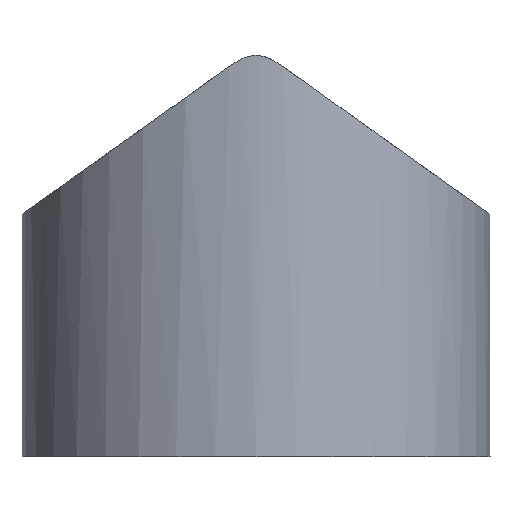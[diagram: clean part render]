
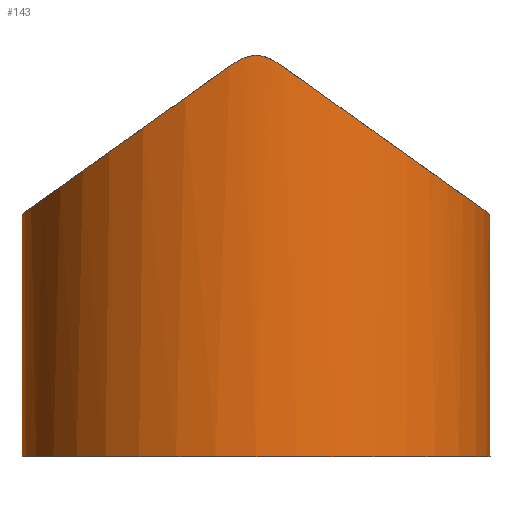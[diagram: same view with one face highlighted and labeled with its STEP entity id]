
A CAD part, left-side view. The second image highlights one B-rep face of the part: STEP entity #143.
In plain terms, the highlighted cylindrical face has radius 4.445 mm (diameter 8.89 mm), a full revolution.
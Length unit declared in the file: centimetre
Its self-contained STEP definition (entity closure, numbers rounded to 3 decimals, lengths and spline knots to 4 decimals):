
#34=CIRCLE('',#150,0.4445);
#35=CYLINDRICAL_SURFACE('',#149,0.4445);
#36=B_SPLINE_CURVE_WITH_KNOTS('',3,(#183,#184,#185,#186,#187,#188),.UNSPECIFIED.,
 .F.,.U.,(4,2,4),(0.,0.0167,0.0335),.UNSPECIFIED.);
#37=B_SPLINE_CURVE_WITH_KNOTS('',3,(#193,#194,#195,#196,#197,#198,#199,#200),
 .UNSPECIFIED.,.F.,.U.,(4,2,2,4),(0.,0.0073,0.0204,
0.0335),.UNSPECIFIED.);
#38=B_SPLINE_CURVE_WITH_KNOTS('',3,(#211,#212,#213,#214,#215,#216),.UNSPECIFIED.,
 .F.,.U.,(4,2,4),(0.,0.0107,0.0215),.UNSPECIFIED.);
#39=B_SPLINE_CURVE_WITH_KNOTS('',3,(#217,#218,#219,#220,#221,#222),.UNSPECIFIED.,
 .F.,.U.,(4,2,4),(0.,0.0047,0.0215),.UNSPECIFIED.);
#40=B_SPLINE_CURVE_WITH_KNOTS('',3,(#236,#237,#238,#239,#240,#241),.UNSPECIFIED.,
 .F.,.U.,(4,2,4),(0.,0.0108,0.0215),.UNSPECIFIED.);
#41=B_SPLINE_CURVE_WITH_KNOTS('',3,(#243,#244,#245,#246,#247,#248),.UNSPECIFIED.,
 .F.,.U.,(4,2,4),(0.,0.0047,0.0215),.UNSPECIFIED.);
#42=B_SPLINE_CURVE_WITH_KNOTS('',3,(#261,#262,#263,#264,#265,#266),.UNSPECIFIED.,
 .F.,.U.,(4,2,4),(0.,0.0167,0.0334),.UNSPECIFIED.);
#43=B_SPLINE_CURVE_WITH_KNOTS('',3,(#267,#268,#269,#270,#271,#272),.UNSPECIFIED.,
 .F.,.U.,(4,2,4),(0.,0.0074,0.0355),.UNSPECIFIED.);
#58=VERTEX_POINT('',#170);
#59=VERTEX_POINT('',#171);
#60=VERTEX_POINT('',#189);
#61=VERTEX_POINT('',#190);
#62=VERTEX_POINT('',#192);
#63=VERTEX_POINT('',#201);
#64=VERTEX_POINT('',#225);
#65=VERTEX_POINT('',#226);
#66=VERTEX_POINT('',#242);
#67=VERTEX_POINT('',#249);
#68=VERTEX_POINT('',#275);
#69=ELLIPSE('',#146,0.5462,0.4445);
#70=ELLIPSE('',#148,0.5462,0.4445);
#71=EDGE_CURVE('',#58,#59,#69,.T.);
#73=EDGE_CURVE('',#60,#61,#36,.T.);
#75=EDGE_CURVE('',#63,#62,#37,.T.);
#77=EDGE_CURVE('',#61,#58,#38,.T.);
#78=EDGE_CURVE('',#59,#63,#39,.T.);
#79=EDGE_CURVE('',#64,#65,#70,.T.);
#81=EDGE_CURVE('',#65,#66,#40,.T.);
#82=EDGE_CURVE('',#67,#64,#41,.T.);
#84=EDGE_CURVE('',#66,#60,#42,.T.);
#85=EDGE_CURVE('',#62,#67,#43,.T.);
#86=EDGE_CURVE('',#68,#68,#34,.T.);
#107=ORIENTED_EDGE('',*,*,#79,.T.);
#108=ORIENTED_EDGE('',*,*,#81,.T.);
#109=ORIENTED_EDGE('',*,*,#84,.T.);
#110=ORIENTED_EDGE('',*,*,#73,.T.);
#111=ORIENTED_EDGE('',*,*,#77,.T.);
#112=ORIENTED_EDGE('',*,*,#71,.T.);
#113=ORIENTED_EDGE('',*,*,#78,.T.);
#114=ORIENTED_EDGE('',*,*,#75,.T.);
#115=ORIENTED_EDGE('',*,*,#85,.T.);
#116=ORIENTED_EDGE('',*,*,#82,.T.);
#117=ORIENTED_EDGE('',*,*,#86,.T.);
#125=EDGE_LOOP('',(#107,#108,#109,#110,#111,#112,#113,#114,#115,#116));
#126=EDGE_LOOP('',(#117));
#134=FACE_BOUND('',#125,.T.);
#135=FACE_BOUND('',#126,.T.);
#143=ADVANCED_FACE('',(#134,#135),#35,.T.);
#146=AXIS2_PLACEMENT_3D('',#169,#153,#154);
#148=AXIS2_PLACEMENT_3D('',#224,#159,#160);
#149=AXIS2_PLACEMENT_3D('',#273,#163,#164);
#150=AXIS2_PLACEMENT_3D('',#274,#165,#166);
#153=DIRECTION('',(0.,0.581,-0.814));
#154=DIRECTION('',(0.,0.445,0.317));
#159=DIRECTION('',(0.,-0.581,-0.814));
#160=DIRECTION('',(0.,0.445,-0.317));
#163=DIRECTION('',(0.,0.,1.));
#164=DIRECTION('',(0.445,0.,0.));
#165=DIRECTION('',(0.,0.,1.));
#166=DIRECTION('',(0.445,0.,0.));
#169=CARTESIAN_POINT('',(0.,0.,0.7774));
#170=CARTESIAN_POINT('',(0.4417,-0.05,0.7417));
#171=CARTESIAN_POINT('',(-0.4417,-0.05,0.7417));
#183=CARTESIAN_POINT('',(0.4445,0.,0.762));
#184=CARTESIAN_POINT('',(0.4445,-0.0056,0.762));
#185=CARTESIAN_POINT('',(0.4444,-0.0111,0.7611));
#186=CARTESIAN_POINT('',(0.444,-0.0218,0.7579));
#187=CARTESIAN_POINT('',(0.4437,-0.027,0.7556));
#188=CARTESIAN_POINT('',(0.4434,-0.0319,0.753));
#189=CARTESIAN_POINT('',(0.4445,0.,0.762));
#190=CARTESIAN_POINT('',(0.4434,-0.0319,0.753));
#192=CARTESIAN_POINT('',(-0.4445,0.,0.762));
#193=CARTESIAN_POINT('',(-0.4434,-0.0319,0.753));
#194=CARTESIAN_POINT('',(-0.4435,-0.0297,0.7542));
#195=CARTESIAN_POINT('',(-0.4437,-0.0275,0.7552));
#196=CARTESIAN_POINT('',(-0.444,-0.0213,0.758));
#197=CARTESIAN_POINT('',(-0.4442,-0.0172,0.7594));
#198=CARTESIAN_POINT('',(-0.4444,-0.0087,0.7614));
#199=CARTESIAN_POINT('',(-0.4445,-0.0044,0.762));
#200=CARTESIAN_POINT('',(-0.4445,0.,0.762));
#201=CARTESIAN_POINT('',(-0.4434,-0.0319,0.753));
#211=CARTESIAN_POINT('',(0.4434,-0.0319,0.753));
#212=CARTESIAN_POINT('',(0.4431,-0.035,0.7514));
#213=CARTESIAN_POINT('',(0.4429,-0.0381,0.7496));
#214=CARTESIAN_POINT('',(0.4423,-0.0442,0.7458));
#215=CARTESIAN_POINT('',(0.442,-0.0471,0.7438));
#216=CARTESIAN_POINT('',(0.4417,-0.05,0.7417));
#217=CARTESIAN_POINT('',(-0.4417,-0.05,0.7417));
#218=CARTESIAN_POINT('',(-0.4418,-0.0488,0.7426));
#219=CARTESIAN_POINT('',(-0.442,-0.0475,0.7435));
#220=CARTESIAN_POINT('',(-0.4426,-0.0416,0.7475));
#221=CARTESIAN_POINT('',(-0.443,-0.0368,0.7504));
#222=CARTESIAN_POINT('',(-0.4434,-0.0319,0.753));
#224=CARTESIAN_POINT('',(0.,0.,0.7774));
#225=CARTESIAN_POINT('',(-0.4417,0.05,0.7417));
#226=CARTESIAN_POINT('',(0.4417,0.05,0.7417));
#236=CARTESIAN_POINT('',(0.4417,0.05,0.7417));
#237=CARTESIAN_POINT('',(0.442,0.0471,0.7438));
#238=CARTESIAN_POINT('',(0.4423,0.0442,0.7458));
#239=CARTESIAN_POINT('',(0.4429,0.0381,0.7496));
#240=CARTESIAN_POINT('',(0.4431,0.035,0.7514));
#241=CARTESIAN_POINT('',(0.4434,0.0319,0.753));
#242=CARTESIAN_POINT('',(0.4434,0.0319,0.753));
#243=CARTESIAN_POINT('',(-0.4434,0.0319,0.753));
#244=CARTESIAN_POINT('',(-0.4433,0.0333,0.7523));
#245=CARTESIAN_POINT('',(-0.4432,0.0346,0.7515));
#246=CARTESIAN_POINT('',(-0.4426,0.0408,0.748));
#247=CARTESIAN_POINT('',(-0.4422,0.0455,0.745));
#248=CARTESIAN_POINT('',(-0.4417,0.05,0.7417));
#249=CARTESIAN_POINT('',(-0.4434,0.0319,0.753));
#261=CARTESIAN_POINT('',(0.4434,0.0319,0.753));
#262=CARTESIAN_POINT('',(0.4437,0.027,0.7556));
#263=CARTESIAN_POINT('',(0.444,0.0218,0.7579));
#264=CARTESIAN_POINT('',(0.4444,0.0111,0.7611));
#265=CARTESIAN_POINT('',(0.4445,0.0056,0.762));
#266=CARTESIAN_POINT('',(0.4445,0.,0.762));
#267=CARTESIAN_POINT('',(-0.4445,0.,0.762));
#268=CARTESIAN_POINT('',(-0.4445,0.0025,0.762));
#269=CARTESIAN_POINT('',(-0.4445,0.0049,0.7618));
#270=CARTESIAN_POINT('',(-0.4443,0.0166,0.7602));
#271=CARTESIAN_POINT('',(-0.4439,0.0249,0.7567));
#272=CARTESIAN_POINT('',(-0.4434,0.0319,0.753));
#273=CARTESIAN_POINT('',(0.,0.,0.));
#274=CARTESIAN_POINT('',(0.,0.,0.));
#275=CARTESIAN_POINT('',(0.4445,0.,0.));
